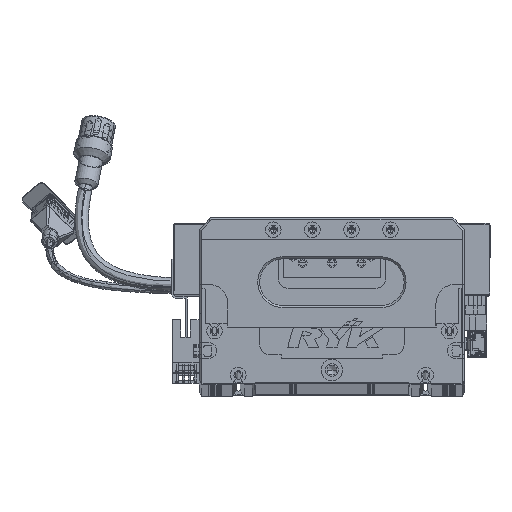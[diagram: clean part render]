
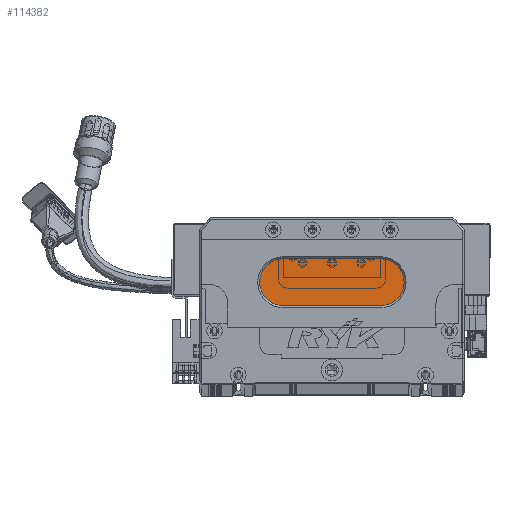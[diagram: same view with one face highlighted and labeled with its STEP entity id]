
A CAD part, top view. The second image highlights one B-rep face of the part: STEP entity #114382.
In plain terms, the highlighted planar face has unit normal (0, 0, 1) as drawn and (0, 0, -1) by its records, which use the part's own axes.
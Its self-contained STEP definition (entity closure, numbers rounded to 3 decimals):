
#1374 = DIRECTION ( 'NONE',  ( -1., 0., 0. ) ) ;
#6974 = VERTEX_POINT ( 'NONE', #49645 ) ;
#7115 = DIRECTION ( 'NONE',  ( 0., 0., -1. ) ) ;
#8212 = ORIENTED_EDGE ( 'NONE', *, *, #69562, .T. ) ;
#10997 = LINE ( 'NONE', #45831, #112616 ) ;
#11473 = AXIS2_PLACEMENT_3D ( 'NONE', #31882, #7115, #113445 ) ;
#12719 = EDGE_LOOP ( 'NONE', ( #37931, #8212, #118226, #130249, #50628 ) ) ;
#13374 = DIRECTION ( 'NONE',  ( -1., 0., 0. ) ) ;
#16273 = AXIS2_PLACEMENT_3D ( 'NONE', #81588, #35623, #139936 ) ;
#21416 = VERTEX_POINT ( 'NONE', #88289 ) ;
#23735 = VERTEX_POINT ( 'NONE', #107407 ) ;
#24156 = CARTESIAN_POINT ( 'NONE',  ( 43., 52., 13. ) ) ;
#30912 = FACE_OUTER_BOUND ( 'NONE', #12719, .T. ) ;
#31882 = CARTESIAN_POINT ( 'NONE',  ( 43., 52., 13. ) ) ;
#32913 = VERTEX_POINT ( 'NONE', #138675 ) ;
#33503 = CIRCLE ( 'NONE', #89273, 12. ) ;
#34309 = DIRECTION ( 'NONE',  ( -1., 0., 0. ) ) ;
#35623 = DIRECTION ( 'NONE',  ( 0., 0., -1. ) ) ;
#37931 = ORIENTED_EDGE ( 'NONE', *, *, #124130, .T. ) ;
#43856 = EDGE_CURVE ( 'NONE', #23735, #21416, #134685, .T. ) ;
#44808 = DIRECTION ( 'NONE',  ( 1., 0., 0. ) ) ;
#45831 = CARTESIAN_POINT ( 'NONE',  ( 93., 64., 13. ) ) ;
#49645 = CARTESIAN_POINT ( 'NONE',  ( 93., 40., 13. ) ) ;
#50628 = ORIENTED_EDGE ( 'NONE', *, *, #120302, .T. ) ;
#58879 = LINE ( 'NONE', #140148, #149348 ) ;
#59359 = PLANE ( 'NONE',  #16273 ) ;
#69562 = EDGE_CURVE ( 'NONE', #6974, #107305, #58879, .T. ) ;
#72723 = DIRECTION ( 'NONE',  ( 0., 0., -1. ) ) ;
#81588 = CARTESIAN_POINT ( 'NONE',  ( 93., 52., 13. ) ) ;
#81710 = CARTESIAN_POINT ( 'NONE',  ( 43., 40., 13. ) ) ;
#88289 = CARTESIAN_POINT ( 'NONE',  ( 43., 64., 13. ) ) ;
#89273 = AXIS2_PLACEMENT_3D ( 'NONE', #24156, #130912, #1374 ) ;
#102160 = EDGE_CURVE ( 'NONE', #107305, #23735, #33503, .T. ) ;
#107305 = VERTEX_POINT ( 'NONE', #81710 ) ;
#107407 = CARTESIAN_POINT ( 'NONE',  ( 31., 52., 13. ) ) ;
#107886 = CIRCLE ( 'NONE', #125186, 12. ) ;
#108862 = CARTESIAN_POINT ( 'NONE',  ( 93., 52., 13. ) ) ;
#112616 = VECTOR ( 'NONE', #44808, 1000. ) ;
#113445 = DIRECTION ( 'NONE',  ( -1., 0., 0. ) ) ;
#114382 = ADVANCED_FACE ( 'NONE', ( #30912 ), #59359, .T. ) ;
#118226 = ORIENTED_EDGE ( 'NONE', *, *, #102160, .T. ) ;
#120302 = EDGE_CURVE ( 'NONE', #21416, #32913, #10997, .T. ) ;
#124130 = EDGE_CURVE ( 'NONE', #32913, #6974, #107886, .T. ) ;
#125186 = AXIS2_PLACEMENT_3D ( 'NONE', #108862, #72723, #13374 ) ;
#130249 = ORIENTED_EDGE ( 'NONE', *, *, #43856, .T. ) ;
#130912 = DIRECTION ( 'NONE',  ( 0., 0., -1. ) ) ;
#134685 = CIRCLE ( 'NONE', #11473, 12. ) ;
#138675 = CARTESIAN_POINT ( 'NONE',  ( 93., 64., 13. ) ) ;
#139936 = DIRECTION ( 'NONE',  ( -1., 0., 0. ) ) ;
#140148 = CARTESIAN_POINT ( 'NONE',  ( 93., 40., 13. ) ) ;
#149348 = VECTOR ( 'NONE', #34309, 1000. ) ;
